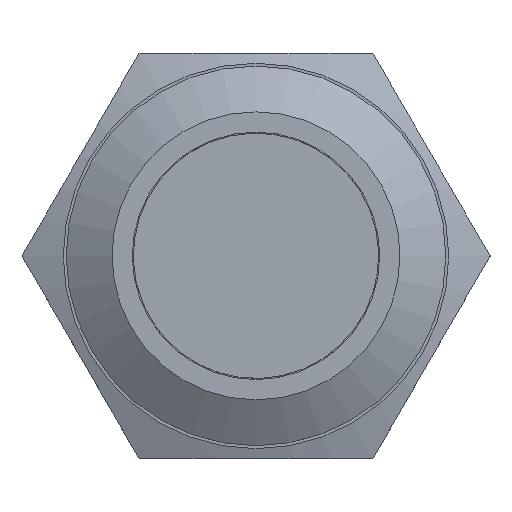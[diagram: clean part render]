
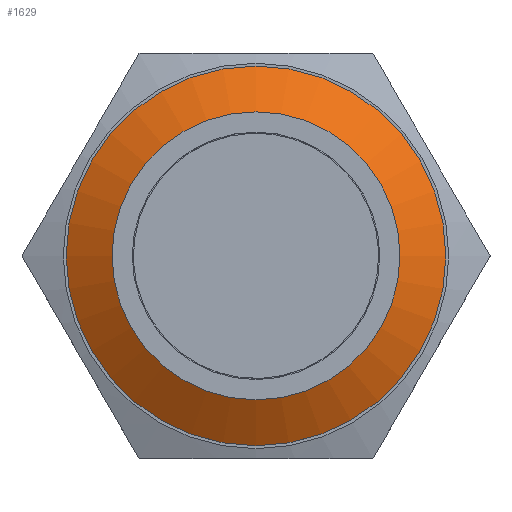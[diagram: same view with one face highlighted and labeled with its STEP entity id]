
A CAD part, top view. The second image highlights one B-rep face of the part: STEP entity #1629.
In plain terms, the highlighted conical face has half-angle 58.841 degrees and reference radius 8.9 mm.
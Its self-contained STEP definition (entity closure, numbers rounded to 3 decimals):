
#1032=CONICAL_SURFACE('',#4606,8.9,58.841);
#1629=ADVANCED_FACE('',(#1759,#1760),#1032,.T.);
#1759=FACE_BOUND('',#2043,.T.);
#1760=FACE_BOUND('',#2044,.T.);
#2043=EDGE_LOOP('',(#3164));
#2044=EDGE_LOOP('',(#3165));
#3164=ORIENTED_EDGE('',*,*,#4212,.F.);
#3165=ORIENTED_EDGE('',*,*,#4211,.F.);
#3620=VERTEX_POINT('',#10873);
#3621=VERTEX_POINT('',#10876);
#4211=EDGE_CURVE('',#3620,#3620,#4298,.T.);
#4212=EDGE_CURVE('',#3621,#3621,#4299,.T.);
#4298=CIRCLE('',#4586,8.9);
#4299=CIRCLE('',#4588,6.75);
#4586=AXIS2_PLACEMENT_3D('',#10872,#5533,#5534);
#4588=AXIS2_PLACEMENT_3D('',#10875,#5537,#5538);
#4606=AXIS2_PLACEMENT_3D('',#10903,#5574,#5575);
#5533=DIRECTION('',(0.,0.,-1.));
#5534=DIRECTION('',(-1.,0.,0.));
#5537=DIRECTION('',(0.,0.,1.));
#5538=DIRECTION('',(-1.,0.,0.));
#5574=DIRECTION('',(0.,0.,-1.));
#5575=DIRECTION('',(-1.,0.,0.));
#10872=CARTESIAN_POINT('',(0.,0.,10.));
#10873=CARTESIAN_POINT('',(-8.9,0.,10.));
#10875=CARTESIAN_POINT('',(0.,0.,11.3));
#10876=CARTESIAN_POINT('',(-6.75,0.,11.3));
#10903=CARTESIAN_POINT('',(0.,0.,10.));
